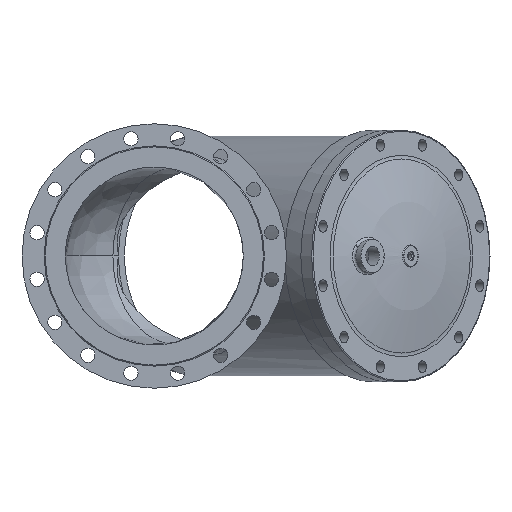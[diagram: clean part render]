
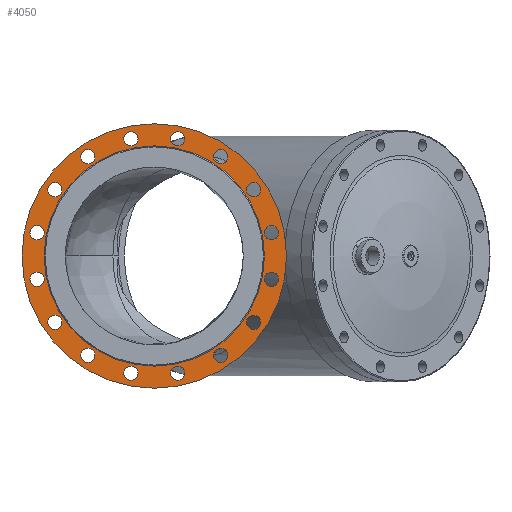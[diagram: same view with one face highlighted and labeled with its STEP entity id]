
A CAD part, left-side view. The second image highlights one B-rep face of the part: STEP entity #4050.
In plain terms, the highlighted planar face has unit normal (-1, 0, 0).
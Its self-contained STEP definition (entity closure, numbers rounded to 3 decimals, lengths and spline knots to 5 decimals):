
#63=FACE_BOUND('',#718,.T.);
#64=FACE_BOUND('',#719,.T.);
#65=FACE_BOUND('',#720,.T.);
#66=FACE_BOUND('',#721,.T.);
#67=FACE_BOUND('',#722,.T.);
#68=FACE_BOUND('',#723,.T.);
#69=FACE_BOUND('',#724,.T.);
#70=FACE_BOUND('',#725,.T.);
#71=FACE_BOUND('',#726,.T.);
#72=FACE_BOUND('',#727,.T.);
#73=FACE_BOUND('',#728,.T.);
#74=FACE_BOUND('',#729,.T.);
#75=FACE_BOUND('',#730,.T.);
#76=FACE_BOUND('',#731,.T.);
#77=FACE_BOUND('',#732,.T.);
#78=FACE_BOUND('',#733,.T.);
#79=FACE_BOUND('',#734,.T.);
#200=PLANE('',#4486);
#459=FACE_OUTER_BOUND('',#717,.T.);
#717=EDGE_LOOP('',(#3278));
#718=EDGE_LOOP('',(#3279));
#719=EDGE_LOOP('',(#3280));
#720=EDGE_LOOP('',(#3281));
#721=EDGE_LOOP('',(#3282));
#722=EDGE_LOOP('',(#3283));
#723=EDGE_LOOP('',(#3284));
#724=EDGE_LOOP('',(#3285));
#725=EDGE_LOOP('',(#3286));
#726=EDGE_LOOP('',(#3287));
#727=EDGE_LOOP('',(#3288));
#728=EDGE_LOOP('',(#3289));
#729=EDGE_LOOP('',(#3290));
#730=EDGE_LOOP('',(#3291));
#731=EDGE_LOOP('',(#3292));
#732=EDGE_LOOP('',(#3293));
#733=EDGE_LOOP('',(#3294));
#734=EDGE_LOOP('',(#3295));
#1021=CIRCLE('',#4362,0.014);
#1023=CIRCLE('',#4365,0.014);
#1025=CIRCLE('',#4368,0.014);
#1027=CIRCLE('',#4371,0.014);
#1029=CIRCLE('',#4374,0.014);
#1031=CIRCLE('',#4377,0.014);
#1033=CIRCLE('',#4380,0.014);
#1035=CIRCLE('',#4383,0.014);
#1037=CIRCLE('',#4386,0.014);
#1039=CIRCLE('',#4389,0.014);
#1041=CIRCLE('',#4392,0.014);
#1043=CIRCLE('',#4395,0.014);
#1045=CIRCLE('',#4398,0.014);
#1047=CIRCLE('',#4401,0.014);
#1049=CIRCLE('',#4404,0.014);
#1051=CIRCLE('',#4407,0.014);
#1095=CIRCLE('',#4485,0.26);
#1096=CIRCLE('',#4487,0.2165);
#1795=VERTEX_POINT('',#12026);
#1797=VERTEX_POINT('',#12032);
#1799=VERTEX_POINT('',#12038);
#1801=VERTEX_POINT('',#12044);
#1803=VERTEX_POINT('',#12050);
#1805=VERTEX_POINT('',#12056);
#1807=VERTEX_POINT('',#12062);
#1809=VERTEX_POINT('',#12068);
#1811=VERTEX_POINT('',#12074);
#1813=VERTEX_POINT('',#12080);
#1815=VERTEX_POINT('',#12086);
#1817=VERTEX_POINT('',#12092);
#1819=VERTEX_POINT('',#12098);
#1821=VERTEX_POINT('',#12104);
#1823=VERTEX_POINT('',#12110);
#1825=VERTEX_POINT('',#12116);
#1905=VERTEX_POINT('',#16992);
#1906=VERTEX_POINT('',#16996);
#2267=EDGE_CURVE('',#1795,#1795,#1021,.T.);
#2270=EDGE_CURVE('',#1797,#1797,#1023,.T.);
#2273=EDGE_CURVE('',#1799,#1799,#1025,.T.);
#2276=EDGE_CURVE('',#1801,#1801,#1027,.T.);
#2279=EDGE_CURVE('',#1803,#1803,#1029,.T.);
#2282=EDGE_CURVE('',#1805,#1805,#1031,.T.);
#2285=EDGE_CURVE('',#1807,#1807,#1033,.T.);
#2288=EDGE_CURVE('',#1809,#1809,#1035,.T.);
#2291=EDGE_CURVE('',#1811,#1811,#1037,.T.);
#2294=EDGE_CURVE('',#1813,#1813,#1039,.T.);
#2297=EDGE_CURVE('',#1815,#1815,#1041,.T.);
#2300=EDGE_CURVE('',#1817,#1817,#1043,.T.);
#2303=EDGE_CURVE('',#1819,#1819,#1045,.T.);
#2306=EDGE_CURVE('',#1821,#1821,#1047,.T.);
#2309=EDGE_CURVE('',#1823,#1823,#1049,.T.);
#2312=EDGE_CURVE('',#1825,#1825,#1051,.T.);
#2424=EDGE_CURVE('',#1905,#1905,#1095,.T.);
#2425=EDGE_CURVE('',#1906,#1906,#1096,.T.);
#3278=ORIENTED_EDGE('',*,*,#2424,.F.);
#3279=ORIENTED_EDGE('',*,*,#2276,.F.);
#3280=ORIENTED_EDGE('',*,*,#2279,.F.);
#3281=ORIENTED_EDGE('',*,*,#2282,.F.);
#3282=ORIENTED_EDGE('',*,*,#2285,.F.);
#3283=ORIENTED_EDGE('',*,*,#2288,.F.);
#3284=ORIENTED_EDGE('',*,*,#2291,.F.);
#3285=ORIENTED_EDGE('',*,*,#2294,.F.);
#3286=ORIENTED_EDGE('',*,*,#2297,.F.);
#3287=ORIENTED_EDGE('',*,*,#2312,.F.);
#3288=ORIENTED_EDGE('',*,*,#2309,.F.);
#3289=ORIENTED_EDGE('',*,*,#2306,.F.);
#3290=ORIENTED_EDGE('',*,*,#2303,.F.);
#3291=ORIENTED_EDGE('',*,*,#2300,.F.);
#3292=ORIENTED_EDGE('',*,*,#2273,.F.);
#3293=ORIENTED_EDGE('',*,*,#2270,.F.);
#3294=ORIENTED_EDGE('',*,*,#2267,.F.);
#3295=ORIENTED_EDGE('',*,*,#2425,.T.);
#4050=ADVANCED_FACE('',(#459,#63,#64,#65,#66,#67,#68,#69,#70,#71,#72,#73,
#74,#75,#76,#77,#78,#79),#200,.F.);
#4362=AXIS2_PLACEMENT_3D('',#12028,#5008,#5009);
#4365=AXIS2_PLACEMENT_3D('',#12034,#5015,#5016);
#4368=AXIS2_PLACEMENT_3D('',#12040,#5022,#5023);
#4371=AXIS2_PLACEMENT_3D('',#12046,#5029,#5030);
#4374=AXIS2_PLACEMENT_3D('',#12052,#5036,#5037);
#4377=AXIS2_PLACEMENT_3D('',#12058,#5043,#5044);
#4380=AXIS2_PLACEMENT_3D('',#12064,#5050,#5051);
#4383=AXIS2_PLACEMENT_3D('',#12070,#5057,#5058);
#4386=AXIS2_PLACEMENT_3D('',#12076,#5064,#5065);
#4389=AXIS2_PLACEMENT_3D('',#12082,#5071,#5072);
#4392=AXIS2_PLACEMENT_3D('',#12088,#5078,#5079);
#4395=AXIS2_PLACEMENT_3D('',#12094,#5085,#5086);
#4398=AXIS2_PLACEMENT_3D('',#12100,#5092,#5093);
#4401=AXIS2_PLACEMENT_3D('',#12106,#5099,#5100);
#4404=AXIS2_PLACEMENT_3D('',#12112,#5106,#5107);
#4407=AXIS2_PLACEMENT_3D('',#12118,#5113,#5114);
#4485=AXIS2_PLACEMENT_3D('',#16994,#5299,#5300);
#4486=AXIS2_PLACEMENT_3D('',#16995,#5301,#5302);
#4487=AXIS2_PLACEMENT_3D('',#16997,#5303,#5304);
#5008=DIRECTION('center_axis',(-1.,0.,0.));
#5009=DIRECTION('ref_axis',(0.,0.,1.));
#5015=DIRECTION('center_axis',(-1.,0.,0.));
#5016=DIRECTION('ref_axis',(0.,0.,1.));
#5022=DIRECTION('center_axis',(-1.,0.,0.));
#5023=DIRECTION('ref_axis',(0.,0.,1.));
#5029=DIRECTION('center_axis',(-1.,0.,0.));
#5030=DIRECTION('ref_axis',(0.,0.,1.));
#5036=DIRECTION('center_axis',(-1.,0.,0.));
#5037=DIRECTION('ref_axis',(0.,0.,1.));
#5043=DIRECTION('center_axis',(-1.,0.,0.));
#5044=DIRECTION('ref_axis',(0.,0.,1.));
#5050=DIRECTION('center_axis',(-1.,0.,0.));
#5051=DIRECTION('ref_axis',(0.,0.,1.));
#5057=DIRECTION('center_axis',(-1.,0.,0.));
#5058=DIRECTION('ref_axis',(0.,0.,1.));
#5064=DIRECTION('center_axis',(-1.,0.,0.));
#5065=DIRECTION('ref_axis',(0.,0.,1.));
#5071=DIRECTION('center_axis',(-1.,0.,0.));
#5072=DIRECTION('ref_axis',(0.,0.,1.));
#5078=DIRECTION('center_axis',(-1.,0.,0.));
#5079=DIRECTION('ref_axis',(0.,0.,1.));
#5085=DIRECTION('center_axis',(-1.,0.,0.));
#5086=DIRECTION('ref_axis',(0.,0.,1.));
#5092=DIRECTION('center_axis',(-1.,0.,0.));
#5093=DIRECTION('ref_axis',(0.,0.,1.));
#5099=DIRECTION('center_axis',(-1.,0.,0.));
#5100=DIRECTION('ref_axis',(0.,0.,1.));
#5106=DIRECTION('center_axis',(-1.,0.,0.));
#5107=DIRECTION('ref_axis',(0.,0.,1.));
#5113=DIRECTION('center_axis',(-1.,0.,0.));
#5114=DIRECTION('ref_axis',(0.,0.,1.));
#5299=DIRECTION('center_axis',(1.,0.,0.));
#5300=DIRECTION('ref_axis',(0.,0.,-1.));
#5301=DIRECTION('center_axis',(1.,0.,0.));
#5302=DIRECTION('ref_axis',(0.,1.,0.));
#5303=DIRECTION('center_axis',(1.,0.,0.));
#5304=DIRECTION('ref_axis',(0.,0.,-1.));
#12026=CARTESIAN_POINT('',(-0.488,0.13056,0.1814));
#12028=CARTESIAN_POINT('Origin',(-0.488,0.13056,0.1954));
#12032=CARTESIAN_POINT('',(-0.488,0.1954,0.11656));
#12034=CARTESIAN_POINT('Origin',(-0.488,0.1954,0.13056));
#12038=CARTESIAN_POINT('',(-0.488,0.23048,0.03185));
#12040=CARTESIAN_POINT('Origin',(-0.488,0.23048,0.04585));
#12044=CARTESIAN_POINT('',(-0.488,0.23048,-0.05985));
#12046=CARTESIAN_POINT('Origin',(-0.488,0.23048,-0.04585));
#12050=CARTESIAN_POINT('',(-0.488,0.1954,-0.14456));
#12052=CARTESIAN_POINT('Origin',(-0.488,0.1954,-0.13056));
#12056=CARTESIAN_POINT('',(-0.488,0.13056,-0.2094));
#12058=CARTESIAN_POINT('Origin',(-0.488,0.13056,-0.1954));
#12062=CARTESIAN_POINT('',(-0.488,0.04585,-0.24448));
#12064=CARTESIAN_POINT('Origin',(-0.488,0.04585,-0.23048));
#12068=CARTESIAN_POINT('',(-0.488,-0.04585,-0.24448));
#12070=CARTESIAN_POINT('Origin',(-0.488,-0.04585,-0.23048));
#12074=CARTESIAN_POINT('',(-0.488,-0.13056,-0.2094));
#12076=CARTESIAN_POINT('Origin',(-0.488,-0.13056,-0.1954));
#12080=CARTESIAN_POINT('',(-0.488,-0.1954,-0.14456));
#12082=CARTESIAN_POINT('Origin',(-0.488,-0.1954,-0.13056));
#12086=CARTESIAN_POINT('',(-0.488,-0.23048,-0.05985));
#12088=CARTESIAN_POINT('Origin',(-0.488,-0.23048,-0.04585));
#12092=CARTESIAN_POINT('',(-0.488,-0.23048,0.03185));
#12094=CARTESIAN_POINT('Origin',(-0.488,-0.23048,0.04585));
#12098=CARTESIAN_POINT('',(-0.488,-0.1954,0.11656));
#12100=CARTESIAN_POINT('Origin',(-0.488,-0.1954,0.13056));
#12104=CARTESIAN_POINT('',(-0.488,-0.13056,0.1814));
#12106=CARTESIAN_POINT('Origin',(-0.488,-0.13056,0.1954));
#12110=CARTESIAN_POINT('',(-0.488,-0.04585,0.21648));
#12112=CARTESIAN_POINT('Origin',(-0.488,-0.04585,0.23048));
#12116=CARTESIAN_POINT('',(-0.488,0.04585,0.21648));
#12118=CARTESIAN_POINT('Origin',(-0.488,0.04585,0.23048));
#16992=CARTESIAN_POINT('',(-0.488,0.,0.26));
#16994=CARTESIAN_POINT('Origin',(-0.488,0.,0.));
#16995=CARTESIAN_POINT('Origin',(-0.488,0.2165,0.));
#16996=CARTESIAN_POINT('',(-0.488,0.,0.2165));
#16997=CARTESIAN_POINT('Origin',(-0.488,0.,0.));
